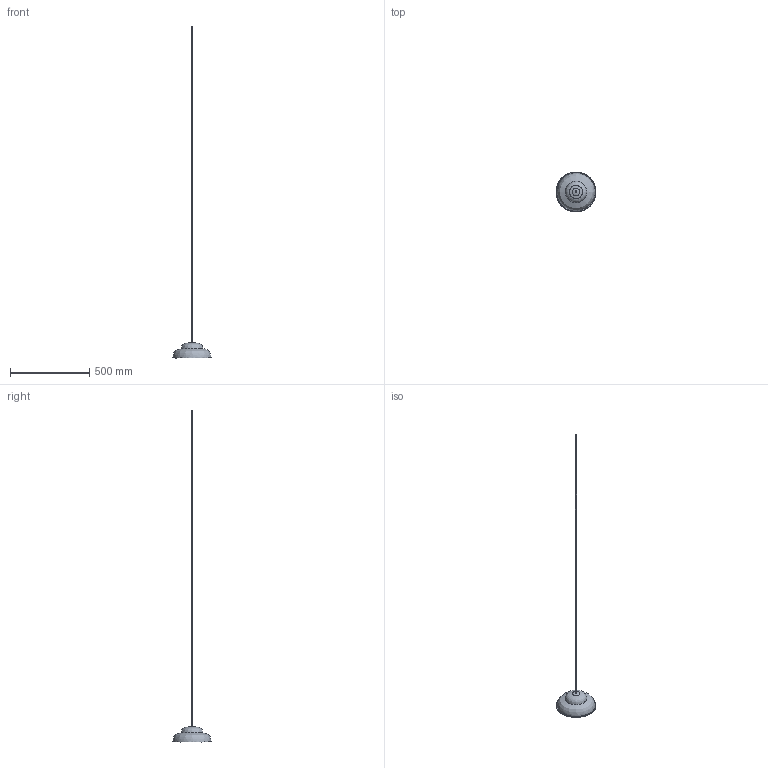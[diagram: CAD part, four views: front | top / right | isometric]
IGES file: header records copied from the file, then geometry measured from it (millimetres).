
Global section: file name: /Users/064_p/Desktop/3d data for homepage/FROG25 V2 P.igs; native system: Rhinoceros ( Jul  7 2025 ); preprocessor: Trout Lake IGES 012 Jul  7 2025; date: 260805.083330; units: millimetre
Bounding box: 251.57 x 251.56 x 2100.24 mm (x, y, z)
Surface area: 155266.5 mm2 (no closed solid volume)
Topology: 0 solids, 0 shells, 11 faces, 46 edges, 38 vertices
Faces by surface type: bspline 11
